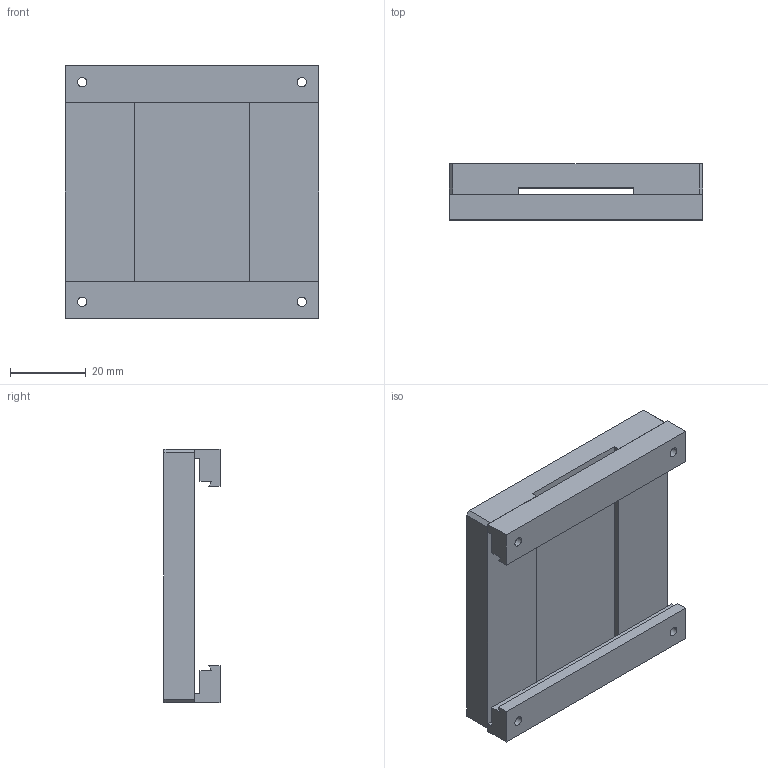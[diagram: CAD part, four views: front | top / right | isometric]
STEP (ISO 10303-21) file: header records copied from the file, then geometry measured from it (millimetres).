
FILE_DESCRIPTION (( 'STEP AP203' ), '1' );
FILE_NAME ('Montageplatte M 50.STEP', '2002-07-08T12:47:20', ( '' ), ( '' ), 'SwSTEP 2.0', 'SolidWorks 2002127', '' );
FILE_SCHEMA (( 'CONFIG_CONTROL_DESIGN' ));
Length unit declared in the file: millimetre
Products named in the file (3): Montageplatte M 50; Montageplatte 50-+-D004970_ _Standard; Klemmleiste-+-D004967_ _Standard
Assembly tree (3 placements, depth 2):
  Montageplatte M 50
    Klemmleiste-+-D004967_ _Standard  x2
    Montageplatte 50-+-D004970_ _Standard
Bounding box: 67 x 14.8 x 67 mm (x, y, z)
Volume: 38844.4 mm3; surface area: 16550.1 mm2
Topology: 3 solids, 3 shells, 62 faces, 156 edges, 104 vertices
Faces by surface type: plane 38, cylinder 24
Entity records: 1805 total; most frequent: DIRECTION 268, CARTESIAN_POINT 254, ORIENTED_EDGE 240, EDGE_CURVE 120, AXIS2_PLACEMENT_3D 94, VERTEX_POINT 80, LINE 80, VECTOR 80
